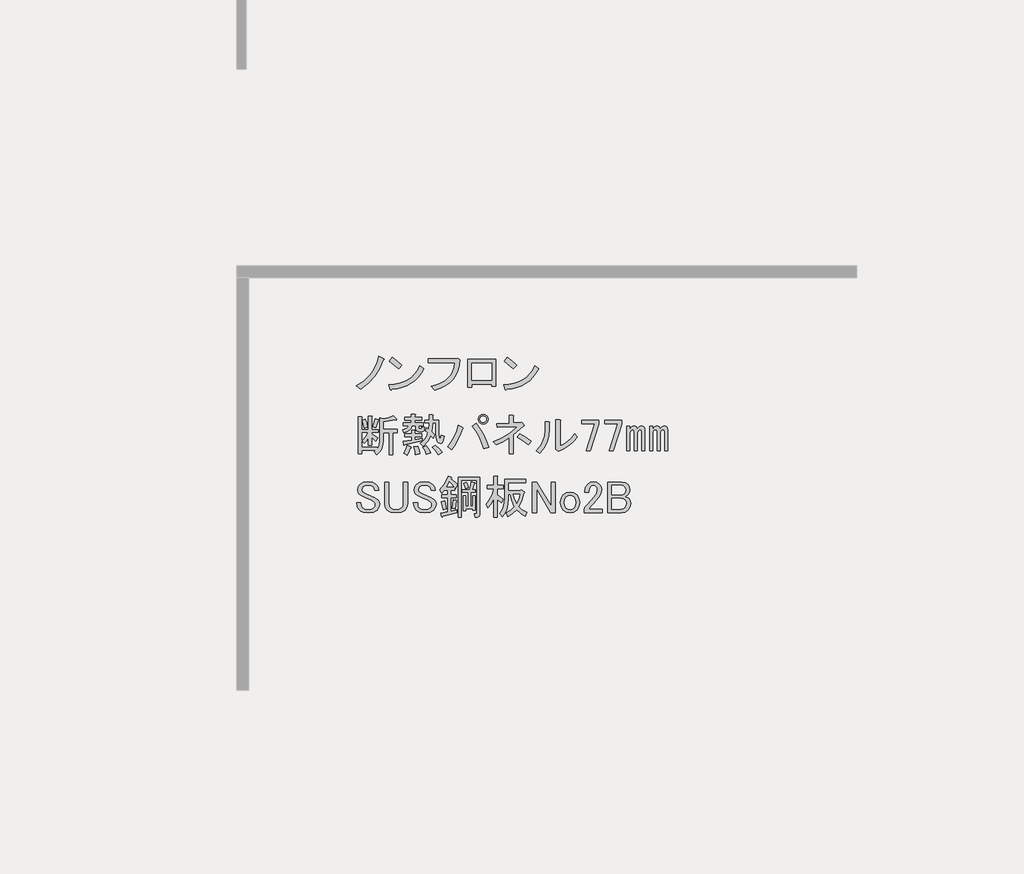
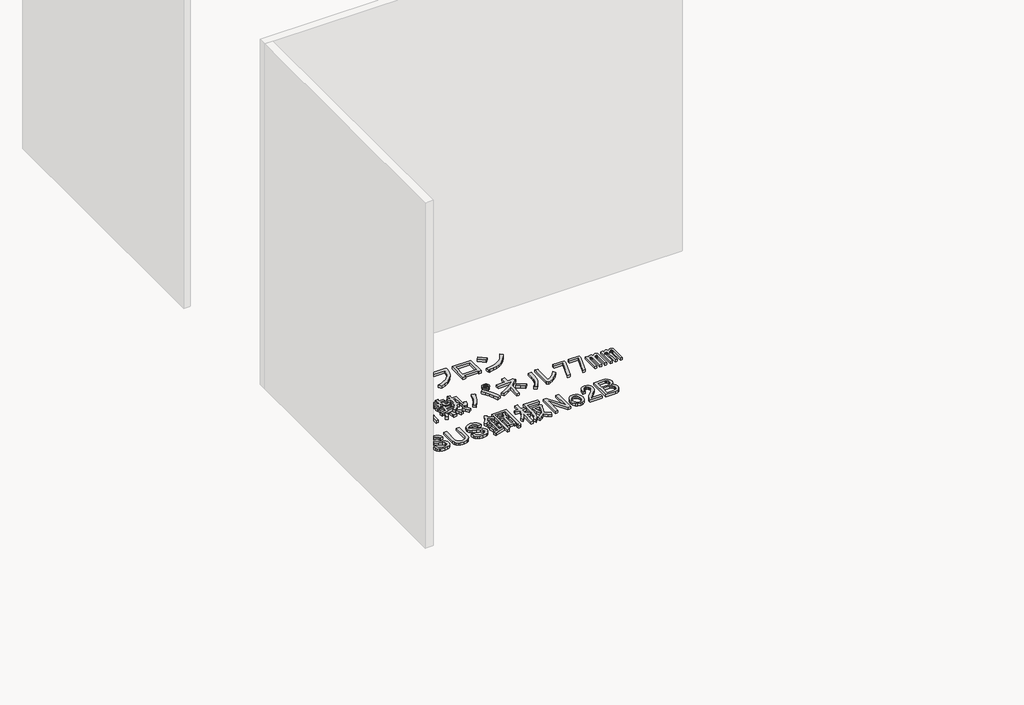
# One storey, part 43 of 117: 1 proxy.
"""IFC4 building model written with IfcOpenShell, lengths in millimetres."""

from ifc_helpers import new_model, si_unit, frame, origin, place, context, project, spatial, polyline, outline, extrude, element, save

model = new_model("IFC4")

# Units and contexts
model_context = context("Model", 3, world=origin())
ifc_project = project(units=[si_unit("LENGTHUNIT", "METRE", prefix="MILLI")], contexts=[model_context])

# Site, building, storey
site = spatial("IfcSite", under=ifc_project)
building = spatial("IfcBuilding", under=site)
storey = spatial("IfcBuildingStorey", under=building, Name="レベル 1", Elevation=500.0)

# Proxy
placement = place(None, origin())
element("IfcBuildingElementProxy", 1, Name="200㎜\u3000MS Pゴシック", ObjectType="200㎜\u3000MS Pゴシック", at=placement, inside=storey, context=model_context, shape_type="SweptSolid", body=[
    extrude(outline(polyline([(8943.6706985, -607.0496882), (8918.0952502, -666.8215225), (8889.646156, -712.7998566), (8847.9782907, -758.2034615), (8798.8389462, -795.560858), (8771.2519457, -773.7211493), (8818.9544673, -743.2605029), (8858.6107805, -704.7536481), (8875.9963381, -680.8305462), (8891.3703435, -652.7406577), (8904.7327969, -620.4839827), (8916.0836981, -584.0605212), (8947.1190736, -597.8540214), (8950.2800841, -602.4518548), (8943.6706985, -607.0496882)])), frame((0.0, 0.0, 500.0), z_axis=(0.0, 0.0, 1.0), x_axis=(1.0, 0.0, 0.0)), (0.0, 0.0, 1.0), 25.0),
    extrude(outline(polyline([(9043.3977052, -662.2236891), (8984.7753292, -615.0958967), (9004.3161212, -590.9572713), (9031.6157571, -610.7854279), (9065.2374138, -640.3839804), (9043.3977052, -662.2236891)])), frame((0.0, 0.0, 500.0), z_axis=(0.0, 0.0, 1.0), x_axis=(1.0, 0.0, 0.0)), (0.0, 0.0, 1.0), 25.0),
    extrude(outline(polyline([(9205.4713328, -662.2236891), (9188.947869, -691.965924), (9169.8381239, -717.9724192), (9148.1420975, -740.2431748), (9123.8597898, -758.7781907), (9096.9912008, -773.577467), (9067.5363306, -784.6410036), (9035.495179, -791.9688006), (9000.8677461, -795.560858), (8995.1204544, -803.6070664), (8989.3731626, -797.8597747), (8980.1774958, -767.9738575), (9016.0082679, -765.2977748), (9048.7857912, -758.9937141), (9078.5100658, -749.0616756), (9105.1810916, -735.5016591), (9128.7988687, -718.3136646), (9149.363397, -697.4976923), (9166.8746766, -673.053742), (9181.3327074, -644.9818138), (9205.4713328, -662.2236891)])), frame((0.0, 0.0, 500.0), z_axis=(0.0, 0.0, 1.0), x_axis=(1.0, 0.0, 0.0)), (0.0, 0.0, 1.0), 25.0),
    extrude(outline(polyline([(9256.2314136, -777.1695243), (9290.014713, -767.4889298), (9319.5234641, -755.1142922), (9344.757667, -740.0456116), (9365.7173217, -722.282888), (9382.402428, -701.8261214), (9394.8129862, -678.6753118), (9402.9489961, -652.8304591), (9406.8104577, -624.2915635), (9234.3917049, -624.2915635), (9234.3917049, -599.0034798), (9409.1093744, -599.0034798), (9425.2017914, -595.5551047), (9437.8458332, -607.0496882), (9434.325617, -643.5449909), (9426.0638851, -676.5919185), (9413.0606375, -706.1904711), (9395.3158742, -732.3406486), (9372.8295952, -755.042451), (9345.6018005, -774.2958784), (9313.6324901, -790.1009308), (9276.921664, -802.4576081), (9256.2314136, -777.1695243)])), frame((0.0, 0.0, 500.0), z_axis=(0.0, 0.0, 1.0), x_axis=(1.0, 0.0, 0.0)), (0.0, 0.0, 1.0), 25.0),
    extrude(outline(polyline([(9670.955987, -776.020066), (9644.5184449, -776.020066), (9644.5184449, -763.3760241), (9516.9285679, -763.3760241), (9516.9285679, -781.7673577), (9490.4910258, -781.7673577), (9490.4910258, -602.4518548), (9670.955987, -602.4518548), (9670.955987, -776.020066)]), holes=[polyline([(9516.9285679, -627.7399386), (9516.9285679, -738.0879404), (9644.5184449, -738.0879404), (9644.5184449, -627.7399386), (9516.9285679, -627.7399386)])]), frame((0.0, 0.0, 500.0), z_axis=(0.0, 0.0, 1.0), x_axis=(1.0, 0.0, 0.0)), (0.0, 0.0, 1.0), 25.0),
    extrude(outline(polyline([(9947.0099049, -662.2236891), (9930.4864411, -691.965924), (9911.376696, -717.9724192), (9889.6806696, -740.2431748), (9865.3983619, -758.7781907), (9838.5297729, -773.577467), (9809.0749026, -784.6410036), (9777.0337511, -791.9688006), (9742.4063182, -795.560858), (9736.6590264, -803.6070664), (9730.9117347, -797.8597747), (9721.7160679, -767.9738575), (9757.5468399, -765.2977748), (9790.3243633, -758.9937141), (9820.0486378, -749.0616756), (9846.7196637, -735.5016591), (9870.3374407, -718.3136646), (9890.9019691, -697.4976923), (9908.4132486, -673.053742), (9922.8712795, -644.9818138), (9947.0099049, -662.2236891)])), frame((0.0, 0.0, 500.0), z_axis=(0.0, 0.0, 1.0), x_axis=(1.0, 0.0, 0.0)), (0.0, 0.0, 1.0), 25.0),
    extrude(outline(polyline([(9784.9362772, -662.2236891), (9726.3139013, -615.0958967), (9745.8546933, -590.9572713), (9773.1543291, -610.7854279), (9806.7759859, -640.3839804), (9784.9362772, -662.2236891)])), frame((0.0, 0.0, 500.0), z_axis=(0.0, 0.0, 1.0), x_axis=(1.0, 0.0, 0.0)), (0.0, 0.0, 1.0), 25.0),
    extrude(outline(polyline([(8877.0021141, -1039.2345221), (8894.2439894, -986.3594379), (8914.9342397, -992.1067296), (8916.6584273, -995.2677401), (8912.635323, -997.8540214), (8895.3934477, -1046.1312722), (8877.0021141, -1039.2345221)])), frame((0.0, 0.0, 500.0), z_axis=(0.0, 0.0, 1.0), x_axis=(1.0, 0.0, 0.0)), (0.0, 0.0, 1.0), 25.0),
    extrude(outline(polyline([(9031.0295333, -990.9572713), (9029.3053458, -995.5551047), (9021.8338665, -993.256188), (8944.8201569, -1005.9002299), (8944.8201569, -1055.326939), (9036.7768251, -1055.326939), (9036.7768251, -1077.1666477), (9005.7414495, -1077.1666477), (9005.7414495, -1217.4005666), (8982.7522825, -1217.4005666), (8982.7522825, -1077.1666477), (8944.8201569, -1077.1666477), (8944.8201569, -1126.5933568), (8942.2338756, -1154.3958807), (8934.4750317, -1179.1810764), (8921.5436253, -1200.948944), (8903.4396562, -1219.6994833), (8886.1977809, -1200.1586914), (8896.5429061, -1190.9630245), (8806.8851546, -1190.9630245), (8806.8851546, -1212.8027332), (8783.8959876, -1212.8027332), (8783.8959876, -973.715396), (8805.7356963, -973.715396), (8810.6208943, -976.0143127), (8806.8851546, -980.6121461), (8806.8851546, -1056.4763974), (8849.4151137, -1056.4763974), (8849.4151137, -969.1175626), (8867.8064473, -969.1175626), (8872.6916453, -971.4164793), (8868.9559057, -976.0143127), (8868.9559057, -1056.4763974), (8912.635323, -1056.4763974), (8912.635323, -1074.867731), (8868.9559057, -1074.867731), (8868.9559057, -1084.0633978), (8909.186948, -1110.5009399), (8895.3934477, -1132.3406486), (8868.9559057, -1105.9031065), (8868.9559057, -1158.7781907), (8849.4151137, -1158.7781907), (8849.4151137, -1110.5009399), (8836.1963426, -1130.3290965), (8821.8281132, -1146.1341488), (8809.1840713, -1127.7428152), (8831.02378, -1103.6041898), (8848.2656553, -1074.867731), (8806.8851546, -1074.867731), (8806.8851546, -1169.1233159), (8904.5891146, -1169.1233159), (8904.5891146, -1182.9168161), (8917.520521, -1158.7781907), (8921.8309898, -1125.4438985), (8921.8309898, -980.6121461), (8943.6706985, -986.3594379), (8979.8786366, -978.8879586), (9010.339283, -965.6691875), (9031.0295333, -990.9572713)])), frame((0.0, 0.0, 500.0), z_axis=(0.0, 0.0, 1.0), x_axis=(1.0, 0.0, 0.0)), (0.0, 0.0, 1.0), 25.0),
    extrude(outline(polyline([(8822.9775716, -1047.2807305), (8810.3335297, -996.7045631), (8829.8743217, -989.8078129), (8837.6331656, -1013.9464383), (8842.5183636, -1040.3839804), (8822.9775716, -1047.2807305)])), frame((0.0, 0.0, 500.0), z_axis=(0.0, 0.0, 1.0), x_axis=(1.0, 0.0, 0.0)), (0.0, 0.0, 1.0), 25.0),
    extrude(outline(polyline([(9121.8367431, -1167.9738575), (9125.2851182, -1172.8590555), (9119.5378264, -1176.020066), (9109.7674304, -1201.5955143), (9098.8475761, -1220.8489417), (9075.858409, -1209.3543582), (9088.5024509, -1185.790462), (9098.8475761, -1158.7781907), (9121.8367431, -1167.9738575)])), frame((0.0, 0.0, 500.0), z_axis=(0.0, 0.0, 1.0), x_axis=(1.0, 0.0, 0.0)), (0.0, 0.0, 1.0), 25.0),
    extrude(outline(polyline([(9166.6656188, -1163.3760241), (9176.7233794, -1190.67566), (9181.6085774, -1212.8027332), (9152.8721186, -1218.550025), (9150.2858373, -1196.9976809), (9142.5269934, -1166.8243992), (9166.6656188, -1163.3760241)])), frame((0.0, 0.0, 500.0), z_axis=(0.0, 0.0, 1.0), x_axis=(1.0, 0.0, 0.0)), (0.0, 0.0, 1.0), 25.0),
    extrude(outline(polyline([(9281.611454, -1157.6287323), (9306.3248086, -1178.8937119), (9325.2908714, -1203.6070664), (9298.8533293, -1218.550025), (9279.5999019, -1188.9514724), (9260.9212037, -1169.1233159), (9281.611454, -1157.6287323)])), frame((0.0, 0.0, 500.0), z_axis=(0.0, 0.0, 1.0), x_axis=(1.0, 0.0, 0.0)), (0.0, 0.0, 1.0), 25.0),
    extrude(outline(polyline([(9222.9890781, -1216.2511083), (9214.655505, -1191.5377537), (9201.1493694, -1170.2727742), (9221.8396197, -1162.2265657), (9238.7941304, -1183.7789098), (9250.5760785, -1207.0554415), (9222.9890781, -1216.2511083)])), frame((0.0, 0.0, 500.0), z_axis=(0.0, 0.0, 1.0), x_axis=(1.0, 0.0, 0.0)), (0.0, 0.0, 1.0), 25.0),
    extrude(outline(polyline([(9083.9046175, -1153.0308989), (9081.8930654, -1157.9160969), (9078.1573257, -1156.479274), (9072.410034, -1132.3406486), (9127.5840349, -1124.2944401), (9127.5840349, -1101.3052731), (9083.9046175, -1101.3052731), (9083.9046175, -1082.9139395), (9127.5840349, -1082.9139395), (9127.5840349, -1059.9247724), (9145.9753685, -1059.9247724), (9150.8605665, -1062.2236891), (9147.1248268, -1066.8215225), (9147.1248268, -1082.9139395), (9191.9537026, -1082.9139395), (9191.9537026, -1101.3052731), (9147.1248268, -1101.3052731), (9147.1248268, -1120.8460651), (9197.7009943, -1111.6503983), (9197.7009943, -1127.7428152), (9083.9046175, -1153.0308989)])), frame((0.0, 0.0, 500.0), z_axis=(0.0, 0.0, 1.0), x_axis=(1.0, 0.0, 0.0)), (0.0, 0.0, 1.0), 25.0),
    extrude(outline(polyline([(9154.021577, -1031.1883136), (9128.7334932, -1031.1883136), (9124.1356598, -1048.6457123), (9113.7905346, -1061.9363245), (9097.6981177, -1071.0601502), (9075.858409, -1076.0171893), (9071.2605756, -1056.4763974), (9096.5486594, -1047.8554597), (9104.0201386, -1040.5276627), (9108.0432429, -1031.1883136), (9072.410034, -1031.1883136), (9072.410034, -1012.79698), (9126.4345765, -1012.79698), (9126.4345765, -995.5551047), (9082.7551591, -995.5551047), (9082.7551591, -977.1637711), (9126.4345765, -977.1637711), (9126.4345765, -958.7724374), (9148.2742852, -958.7724374), (9153.1594832, -961.0713541), (9149.4237436, -965.6691875), (9149.4237436, -977.1637711), (9191.9537026, -977.1637711), (9191.9537026, -995.5551047), (9149.4237436, -995.5551047), (9149.4237436, -1012.79698), (9202.2988277, -1012.79698), (9202.2988277, -1031.1883136), (9173.5623689, -1031.1883136), (9173.5623689, -1043.8323555), (9174.9991919, -1049.0049181), (9179.3096607, -1050.7291056), (9189.6547859, -1050.7291056), (9193.3905255, -1047.5680951), (9193.1031609, -1038.0850637), (9212.6439529, -1040.3839804), (9209.770307, -1061.9363245), (9204.4540622, -1067.3244106), (9196.551536, -1069.1204392), (9172.4129106, -1069.1204392), (9158.6194104, -1064.2352412), (9154.021577, -1049.5796472), (9154.021577, -1031.1883136)])), frame((0.0, 0.0, 500.0), z_axis=(0.0, 0.0, 1.0), x_axis=(1.0, 0.0, 0.0)), (0.0, 0.0, 1.0), 25.0),
    extrude(outline(polyline([(9285.0598291, -1013.9464383), (9263.2201204, -1013.9464383), (9258.622287, -1071.4193559), (9278.163079, -1089.8106896), (9267.8179538, -1111.6503983), (9251.7255369, -1095.5579813), (9232.4721095, -1133.2027424), (9202.2988277, -1165.6749408), (9185.0569525, -1144.9846905), (9200.1435933, -1133.0590601), (9213.2186821, -1117.9724192), (9224.2822187, -1099.7247679), (9233.3342033, -1078.316106), (9216.092328, -1063.3731475), (9224.1385364, -1046.1312722), (9237.9320367, -1056.4763974), (9240.2309534, -1013.9464383), (9212.6439529, -1013.9464383), (9212.6439529, -995.5551047), (9240.2309534, -995.5551047), (9240.2309534, -961.0713541), (9262.0706621, -961.0713541), (9266.95586, -963.3702708), (9263.2201204, -967.9681043), (9263.2201204, -995.5551047), (9304.6006211, -995.5551047), (9304.6006211, -1092.1096063), (9308.0489961, -1116.2482317), (9311.2818477, -1118.2597838), (9314.0836525, -1115.0987733), (9318.3941213, -1093.2590646), (9337.9349133, -1100.1558147), (9333.408921, -1126.9525626), (9325.578236, -1142.9731384), (9314.4428582, -1148.2175421), (9300.0027877, -1142.6857738), (9293.4652433, -1135.3579768), (9288.7955687, -1123.719711), (9285.0598291, -1087.5117729), (9285.0598291, -1013.9464383)])), frame((0.0, 0.0, 500.0), z_axis=(0.0, 0.0, 1.0), x_axis=(1.0, 0.0, 0.0)), (0.0, 0.0, 1.0), 25.0),
    extrude(outline(polyline([(9543.6879583, -1016.245355), (9570.3410238, -1052.9561812), (9592.8273029, -1090.6727833), (9611.1467953, -1129.3951616), (9625.2995013, -1169.1233159), (9594.2641258, -1179.468441), (9578.8182792, -1136.3637528), (9561.2171982, -1097.856898), (9541.4608827, -1063.9478766), (9519.5493329, -1034.6366887), (9543.6879583, -1016.245355)])), frame((0.0, 0.0, 500.0), z_axis=(0.0, 0.0, 1.0), x_axis=(1.0, 0.0, 0.0)), (0.0, 0.0, 1.0), 25.0),
    extrude(outline(polyline([(9456.3291235, -1042.6828971), (9460.3522278, -1048.1428243), (9454.0302068, -1053.0280223), (9442.1045764, -1088.4457078), (9427.0179356, -1122.282888), (9408.7702842, -1154.539563), (9387.3616224, -1185.2157328), (9360.9240803, -1167.9738575), (9384.1287708, -1136.5074351), (9403.1666748, -1103.0294606), (9418.0377922, -1067.539934), (9428.7421231, -1030.0388553), (9456.3291235, -1042.6828971)])), frame((0.0, 0.0, 500.0), z_axis=(0.0, 0.0, 1.0), x_axis=(1.0, 0.0, 0.0)), (0.0, 0.0, 1.0), 25.0),
    extrude(outline(polyline([(9589.6662924, -1021.9926468), (9577.0222505, -1019.6937301), (9566.6771253, -1012.79698), (9559.7803752, -1002.4518548), (9557.4814585, -989.8078129), (9559.7803752, -977.1637711), (9566.6771253, -966.8186459), (9577.0222505, -959.9218958), (9589.6662924, -957.6229791), (9602.3103343, -959.9218958), (9612.6554594, -966.8186459), (9619.5522095, -977.1637711), (9621.8511262, -989.8078129), (9619.5522095, -1002.4518548), (9612.6554594, -1012.79698), (9602.3103343, -1019.6937301), (9589.6662924, -1021.9926468)]), holes=[polyline([(9589.6662924, -1010.4980633), (9597.9998654, -1009.0612403), (9604.609251, -1004.7507715), (9608.9197198, -998.141386), (9610.3565427, -989.8078129), (9608.9197198, -981.4742399), (9604.609251, -974.8648544), (9597.9998654, -970.5543855), (9589.6662924, -969.1175626), (9581.3327193, -970.5543855), (9574.7233338, -974.8648544), (9570.412865, -981.4742399), (9568.976042, -989.8078129), (9570.412865, -998.141386), (9574.7233338, -1004.7507715), (9581.3327193, -1009.0612403), (9589.6662924, -1010.4980633)])]), frame((0.0, 0.0, 500.0), z_axis=(0.0, 0.0, 1.0), x_axis=(1.0, 0.0, 0.0)), (0.0, 0.0, 1.0), 25.0),
    extrude(outline(polyline([(9879.3297971, -1155.3298156), (9842.2597652, -1126.0186277), (9809.2128376, -1104.7536481), (9826.4547129, -1082.9139395), (9865.2489323, -1106.1904711), (9898.8705891, -1132.3406486), (9879.3297971, -1155.3298156)])), frame((0.0, 0.0, 500.0), z_axis=(0.0, 0.0, 1.0), x_axis=(1.0, 0.0, 0.0)), (0.0, 0.0, 1.0), 25.0),
    extrude(outline(polyline([(9833.351463, -1011.6475216), (9840.2482131, -1009.3486049), (9852.892255, -1026.5904802), (9854.0417134, -1032.6251366), (9848.2944216, -1034.6366887), (9785.0742122, -1090.9601479), (9785.0742122, -1211.6532749), (9758.6366701, -1211.6532749), (9758.6366701, -1109.3514816), (9718.4056278, -1133.4901069), (9673.5767521, -1155.3298156), (9654.0359601, -1134.6395653), (9699.5832473, -1115.1706145), (9740.8200657, -1092.3969709), (9777.7464152, -1066.3186345), (9810.362296, -1036.9356054), (9680.4735022, -1042.6828971), (9677.0251271, -1017.3948134), (9758.6366701, -1015.0958967), (9758.6366701, -963.3702708), (9781.6258372, -963.3702708), (9787.6604935, -966.8186459), (9785.0742122, -972.5659377), (9785.0742122, -1013.9464383), (9833.351463, -1011.6475216)])), frame((0.0, 0.0, 500.0), z_axis=(0.0, 0.0, 1.0), x_axis=(1.0, 0.0, 0.0)), (0.0, 0.0, 1.0), 25.0),
    extrude(outline(polyline([(9932.296838, -1193.2619413), (9957.4412394, -1164.0225944), (9975.4015262, -1131.4785548), (9986.1776982, -1095.6298225), (9989.7697556, -1056.4763974), (9989.7697556, -1004.7507715), (10013.908381, -1004.7507715), (10019.6556727, -1008.1991466), (10016.2072977, -1013.9464383), (10016.2072977, -1055.326939), (10012.3997169, -1101.0897496), (10000.9769745, -1141.82368), (9981.9390705, -1177.5287301), (9955.286005, -1208.2048998), (9932.296838, -1193.2619413)])), frame((0.0, 0.0, 500.0), z_axis=(0.0, 0.0, 1.0), x_axis=(1.0, 0.0, 0.0)), (0.0, 0.0, 1.0), 25.0),
    extrude(outline(polyline([(10086.3242571, -1162.2265657), (10111.1094529, -1150.0135708), (10134.8888725, -1132.9153778), (10157.6625161, -1110.9319868), (10179.4303837, -1084.0633978), (10195.5228006, -1105.9031065), (10172.246269, -1133.7056304), (10146.0960914, -1157.3413678), (10117.0722681, -1176.8103186), (10085.1747988, -1192.1124829), (10075.979132, -1196.7103163), (10057.5877983, -1182.9168161), (10059.886715, -1177.1695243), (10059.886715, -992.1067296), (10084.0253404, -992.1067296), (10089.7726322, -995.5551047), (10086.3242571, -1001.3023965), (10086.3242571, -1162.2265657)])), frame((0.0, 0.0, 500.0), z_axis=(0.0, 0.0, 1.0), x_axis=(1.0, 0.0, 0.0)), (0.0, 0.0, 1.0), 25.0),
    extrude(outline(polyline([(10227.7076344, -995.5551047), (10336.9061779, -995.5551047), (10336.9061779, -1020.8431884), (10281.732177, -1192.1124829), (10256.4440932, -1192.1124829), (10311.6180941, -1017.3948134), (10227.7076344, -1017.3948134), (10227.7076344, -995.5551047)])), frame((0.0, 0.0, 500.0), z_axis=(0.0, 0.0, 1.0), x_axis=(1.0, 0.0, 0.0)), (0.0, 0.0, 1.0), 25.0),
    extrude(outline(polyline([(10374.8383035, -995.5551047), (10484.0368469, -995.5551047), (10484.0368469, -1020.8431884), (10428.862846, -1192.1124829), (10403.5747623, -1192.1124829), (10458.7487632, -1017.3948134), (10374.8383035, -1017.3948134), (10374.8383035, -995.5551047)])), frame((0.0, 0.0, 500.0), z_axis=(0.0, 0.0, 1.0), x_axis=(1.0, 0.0, 0.0)), (0.0, 0.0, 1.0), 25.0),
    extrude(outline(polyline([(10758.7573931, -1032.337772), (10767.0909661, -1033.7745949), (10773.7003517, -1038.0850637), (10778.8729142, -1046.7060014), (10780.5971018, -1058.7753141), (10780.5971018, -1193.2619413), (10761.0563098, -1193.2619413), (10761.0563098, -1069.1204392), (10758.4700285, -1059.6374078), (10750.7111846, -1056.4763974), (10740.3660594, -1061.0742308), (10734.3314031, -1069.6951684), (10732.319851, -1079.4655644), (10732.319851, -1193.2619413), (10712.779059, -1193.2619413), (10712.779059, -1069.1204392), (10710.1927777, -1059.6374078), (10702.4339338, -1056.4763974), (10692.0888087, -1061.0742308), (10686.0541523, -1069.6951684), (10684.0426002, -1079.4655644), (10684.0426002, -1193.2619413), (10664.5018082, -1193.2619413), (10664.5018082, -1035.786147), (10684.0426002, -1035.786147), (10684.0426002, -1053.0280223), (10696.1119129, -1037.5103346), (10709.3306839, -1032.337772), (10718.5263508, -1033.7745949), (10725.4231009, -1038.0850637), (10732.319851, -1051.878564), (10745.2512574, -1037.22297), (10758.7573931, -1032.337772)])), frame((0.0, 0.0, 500.0), z_axis=(0.0, 0.0, 1.0), x_axis=(1.0, 0.0, 0.0)), (0.0, 0.0, 1.0), 25.0),
    extrude(outline(polyline([(10536.9119311, -1193.2619413), (10517.3711392, -1193.2619413), (10517.3711392, -1035.786147), (10536.9119311, -1035.786147), (10536.9119311, -1053.0280223), (10548.9812438, -1037.5103346), (10562.2000149, -1032.337772), (10571.3956817, -1033.7745949), (10578.2924318, -1038.0850637), (10585.1891819, -1051.878564), (10598.1205884, -1037.22297), (10611.626724, -1032.337772), (10619.9602971, -1033.7745949), (10626.5696826, -1038.0850637), (10631.7422452, -1046.7060014), (10633.4664327, -1058.7753141), (10633.4664327, -1193.2619413), (10613.9256407, -1193.2619413), (10613.9256407, -1069.1204392), (10611.3393594, -1059.6374078), (10603.5805156, -1056.4763974), (10593.2353904, -1061.0742308), (10587.200734, -1069.6951684), (10585.1891819, -1079.4655644), (10585.1891819, -1193.2619413), (10565.6483899, -1193.2619413), (10565.6483899, -1069.1204392), (10563.0621086, -1059.6374078), (10555.3032648, -1056.4763974), (10544.9581396, -1061.0742308), (10538.9234833, -1069.6951684), (10536.9119311, -1079.4655644), (10536.9119311, -1193.2619413)])), frame((0.0, 0.0, 500.0), z_axis=(0.0, 0.0, 1.0), x_axis=(1.0, 0.0, 0.0)), (0.0, 0.0, 1.0), 25.0),
    extrude(outline(polyline([(8779.2981542, -1447.2807305), (8783.3212584, -1426.8778448), (8795.3905711, -1409.3486049), (8815.7934569, -1397.2792922), (8844.8172803, -1393.256188), (8876.1400204, -1397.8540214), (8898.8418228, -1411.6475216), (8910.9111355, -1429.1767615), (8914.9342397, -1449.5796472), (8888.4966976, -1449.5796472), (8886.1977809, -1436.9356054), (8879.3010308, -1426.5904802), (8866.0822598, -1418.8316363), (8847.116197, -1416.245355), (8826.7133112, -1418.5442717), (8813.7819048, -1425.4410219), (8807.7472484, -1434.0619595), (8805.7356963, -1443.8323555), (8810.3335297, -1458.7753141), (8831.02378, -1470.2698976), (8890.7956143, -1496.7074397), (8908.0374896, -1508.2020232), (8917.520521, -1521.9955234), (8920.6815315, -1538.0879404), (8916.6584273, -1559.3529199), (8904.5891146, -1577.1695243), (8894.6031951, -1584.7128448), (8881.8873121, -1590.1009308), (8848.2656553, -1594.4113996), (8814.6439985, -1589.238837), (8801.0660217, -1582.7731338), (8789.6432794, -1573.7211493), (8778.4360604, -1555.3298156), (8774.7003208, -1530.0417319), (8801.1378629, -1530.0417319), (8803.4367796, -1547.8583363), (8810.3335297, -1559.927649), (8826.4259466, -1569.4106804), (8849.4151137, -1572.5716909), (8870.3927286, -1569.698045), (8885.0483226, -1561.0771074), (8891.9450727, -1551.8814406), (8894.2439894, -1542.6857738), (8892.5198019, -1533.2027424), (8887.3472393, -1525.4438985), (8868.9559057, -1513.949315), (8839.0699885, -1500.1558147), (8805.7356963, -1485.2128562), (8789.6432794, -1474.867731), (8781.8844355, -1462.7984183), (8779.2981542, -1447.2807305)])), frame((0.0, 0.0, 500.0), z_axis=(0.0, 0.0, 1.0), x_axis=(1.0, 0.0, 0.0)), (0.0, 0.0, 1.0), 25.0),
    extrude(outline(polyline([(8954.7054987, -1395.5551047), (8981.1430408, -1395.5551047), (8981.1430408, -1533.4901069), (8983.7293221, -1548.1457009), (8991.488166, -1559.927649), (9007.0058537, -1569.4106804), (9028.2708332, -1572.5716909), (9049.5358128, -1569.4106804), (9065.0535005, -1559.927649), (9072.8123444, -1548.1457009), (9075.3986257, -1533.4901069), (9075.3986257, -1395.5551047), (9101.8361678, -1395.5551047), (9101.8361678, -1534.6395653), (9097.8130635, -1557.6287323), (9085.7437508, -1576.020066), (9075.2549434, -1584.0662744), (9062.1798546, -1589.8135662), (9028.2708332, -1594.4113996), (8994.3618119, -1589.8135662), (8981.2867231, -1584.0662744), (8970.7979156, -1576.020066), (8958.7286029, -1557.6287323), (8954.7054987, -1534.6395653), (8954.7054987, -1395.5551047)])), frame((0.0, 0.0, 500.0), z_axis=(0.0, 0.0, 1.0), x_axis=(1.0, 0.0, 0.0)), (0.0, 0.0, 1.0), 25.0),
    extrude(outline(polyline([(9144.1822135, -1447.2807305), (9148.2053177, -1426.8778448), (9160.2746304, -1409.3486049), (9180.6775161, -1397.2792922), (9209.7013395, -1393.256188), (9241.0240796, -1397.8540214), (9263.7258821, -1411.6475216), (9275.7951948, -1429.1767615), (9279.818299, -1449.5796472), (9253.3807569, -1449.5796472), (9251.0818402, -1436.9356054), (9244.1850901, -1426.5904802), (9230.966319, -1418.8316363), (9212.0002562, -1416.245355), (9191.5973705, -1418.5442717), (9178.665964, -1425.4410219), (9172.6313077, -1434.0619595), (9170.6197556, -1443.8323555), (9175.217589, -1458.7753141), (9195.9078393, -1470.2698976), (9255.6796736, -1496.7074397), (9272.9215489, -1508.2020232), (9282.4045803, -1521.9955234), (9285.5655908, -1538.0879404), (9281.5424865, -1559.3529199), (9269.4731738, -1577.1695243), (9259.4872544, -1584.7128448), (9246.7713714, -1590.1009308), (9213.1497146, -1594.4113996), (9179.5280578, -1589.238837), (9165.950081, -1582.7731338), (9154.5273386, -1573.7211493), (9143.3201197, -1555.3298156), (9139.5843801, -1530.0417319), (9166.0219222, -1530.0417319), (9168.3208389, -1547.8583363), (9175.217589, -1559.927649), (9191.3100059, -1569.4106804), (9214.2991729, -1572.5716909), (9235.2767879, -1569.698045), (9249.9323819, -1561.0771074), (9256.829132, -1551.8814406), (9259.1280487, -1542.6857738), (9257.4038611, -1533.2027424), (9252.2312986, -1525.4438985), (9233.8399649, -1513.949315), (9203.9540478, -1500.1558147), (9170.6197556, -1485.2128562), (9154.5273386, -1474.867731), (9146.7684948, -1462.7984183), (9144.1822135, -1447.2807305)])), frame((0.0, 0.0, 500.0), z_axis=(0.0, 0.0, 1.0), x_axis=(1.0, 0.0, 0.0)), (0.0, 0.0, 1.0), 25.0),
    extrude(outline(polyline([(9417.2935179, -1513.949315), (9419.8797992, -1517.1103254), (9416.1440596, -1519.6966067), (9408.0978511, -1566.8243992), (9389.7065175, -1564.5254825), (9395.4538092, -1510.5009399), (9417.2935179, -1513.949315)])), frame((0.0, 0.0, 500.0), z_axis=(0.0, 0.0, 1.0), x_axis=(1.0, 0.0, 0.0)), (0.0, 0.0, 1.0), 25.0),
    extrude(outline(polyline([(9340.2798083, -1515.0987733), (9351.7743918, -1566.8243992), (9331.0841415, -1572.5716909), (9319.589558, -1520.8460651), (9340.2798083, -1515.0987733)])), frame((0.0, 0.0, 500.0), z_axis=(0.0, 0.0, 1.0), x_axis=(1.0, 0.0, 0.0)), (0.0, 0.0, 1.0), 25.0),
    extrude(outline(polyline([(9413.8451429, -1434.6366887), (9372.4646422, -1390.9572713), (9350.6249335, -1430.0388553), (9405.7989344, -1430.0388553), (9405.7989344, -1448.4301889), (9379.3613923, -1448.4301889), (9379.3613923, -1477.1666477), (9417.2935179, -1477.1666477), (9417.2935179, -1495.5579813), (9379.3613923, -1495.5579813), (9379.3613923, -1582.9168161), (9418.4429763, -1572.5716909), (9420.741893, -1592.1124829), (9328.7852248, -1617.4005666), (9326.4863081, -1623.1478584), (9321.8884747, -1619.6994833), (9314.9917246, -1596.7103163), (9359.8206003, -1587.5146495), (9359.8206003, -1495.5579813), (9321.8884747, -1495.5579813), (9321.8884747, -1477.1666477), (9359.8206003, -1477.1666477), (9359.8206003, -1448.4301889), (9337.9808916, -1448.4301889), (9323.037933, -1466.8215225), (9310.3938912, -1446.1312722), (9338.5556208, -1408.4865112), (9363.2689754, -1357.6229791), (9385.1086841, -1363.3702708), (9388.5570591, -1367.1060105), (9382.8097674, -1369.1175626), (9381.660309, -1372.5659377), (9426.4891847, -1410.4980633), (9413.8451429, -1434.6366887)])), frame((0.0, 0.0, 500.0), z_axis=(0.0, 0.0, 1.0), x_axis=(1.0, 0.0, 0.0)), (0.0, 0.0, 1.0), 25.0),
    extrude(outline(polyline([(9481.6631856, -1397.8540214), (9488.8473003, -1413.0843446), (9494.3072275, -1433.4872303), (9477.0653522, -1439.2345221), (9465.5707687, -1402.4518548), (9481.6631856, -1397.8540214)])), frame((0.0, 0.0, 500.0), z_axis=(0.0, 0.0, 1.0), x_axis=(1.0, 0.0, 0.0)), (0.0, 0.0, 1.0), 25.0),
    extrude(outline(polyline([(9534.5382698, -1399.0034798), (9537.1245511, -1402.4518548), (9531.0898948, -1405.9002299), (9518.4458529, -1443.8323555), (9539.1361032, -1443.8323555), (9539.1361032, -1462.2236891), (9508.1007277, -1462.2236891), (9508.1007277, -1550.7319822), (9523.0436863, -1550.7319822), (9523.0436863, -1482.9139395), (9539.1361032, -1482.9139395), (9539.1361032, -1577.1695243), (9523.0436863, -1577.1695243), (9523.0436863, -1569.1233159), (9477.0653522, -1569.1233159), (9477.0653522, -1581.7673577), (9460.9729353, -1581.7673577), (9460.9729353, -1485.2128562), (9477.0653522, -1485.2128562), (9477.0653522, -1550.7319822), (9492.0083108, -1550.7319822), (9492.0083108, -1462.2236891), (9456.3751019, -1462.2236891), (9456.3751019, -1443.8323555), (9502.353436, -1443.8323555), (9512.6985611, -1394.4056463), (9534.5382698, -1399.0034798)])), frame((0.0, 0.0, 500.0), z_axis=(0.0, 0.0, 1.0), x_axis=(1.0, 0.0, 0.0)), (0.0, 0.0, 1.0), 25.0),
    extrude(outline(polyline([(9428.7881014, -1365.6691875), (9569.0220204, -1365.6691875), (9569.0220204, -1605.9059831), (9565.2862807, -1617.1132021), (9554.0790618, -1620.8489417), (9537.9866449, -1620.8489417), (9533.3888115, -1599.009233), (9544.883395, -1599.009233), (9548.33177, -1597.8597747), (9549.4812284, -1594.4113996), (9549.4812284, -1384.0605212), (9448.3288934, -1384.0605212), (9448.3288934, -1623.1478584), (9428.7881014, -1623.1478584), (9428.7881014, -1365.6691875)])), frame((0.0, 0.0, 500.0), z_axis=(0.0, 0.0, 1.0), x_axis=(1.0, 0.0, 0.0)), (0.0, 0.0, 1.0), 25.0),
    extrude(outline(polyline([(9740.2913148, -1594.4113996), (9769.0277736, -1577.1695243), (9790.8674823, -1555.3298156), (9773.0508779, -1513.3745858), (9763.2804819, -1472.5688143), (9750.63644, -1472.5688143), (9750.63644, -1496.7074397), (9748.193841, -1538.4471461), (9740.866044, -1572.8590555), (9728.653049, -1599.9431679), (9711.554856, -1619.6994833), (9697.7613558, -1596.7103163), (9710.8364446, -1579.3247587), (9720.1757937, -1557.0540032), (9725.7794031, -1529.8980496), (9727.647273, -1497.856898), (9727.647273, -1377.1637711), (9864.4328169, -1377.1637711), (9864.4328169, -1399.0034798), (9750.63644, -1399.0034798), (9750.63644, -1450.7291056), (9829.9490663, -1450.7291056), (9835.6963581, -1444.9818138), (9855.23715, -1458.7753141), (9856.673973, -1462.5110537), (9851.788775, -1466.8215225), (9839.4320977, -1513.3745858), (9820.7533995, -1554.1803573), (9839.7194623, -1572.5716909), (9871.329567, -1590.9630245), (9862.1339002, -1615.1016499), (9834.2595351, -1599.009233), (9805.8104409, -1573.7211493), (9781.3844509, -1598.1471392), (9749.4869817, -1618.550025), (9740.2913148, -1594.4113996)]), holes=[polyline([(9785.1201906, -1472.5688143), (9793.166399, -1505.6157419), (9805.8104409, -1533.4901069), (9818.4544828, -1507.3399294), (9826.5006912, -1472.5688143), (9785.1201906, -1472.5688143)])]), frame((0.0, 0.0, 500.0), z_axis=(0.0, 0.0, 1.0), x_axis=(1.0, 0.0, 0.0)), (0.0, 0.0, 1.0), 25.0),
    extrude(outline(polyline([(9657.5303135, -1623.1478584), (9657.5303135, -1503.6041898), (9639.713709, -1537.8005758), (9620.7476462, -1559.927649), (9609.2530627, -1539.2373987), (9626.494938, -1516.5355963), (9640.2884382, -1492.1096063), (9650.6335634, -1465.9594288), (9657.5303135, -1438.0850637), (9616.1498128, -1438.0850637), (9616.1498128, -1416.245355), (9657.5303135, -1416.245355), (9657.5303135, -1356.4735207), (9679.3700222, -1356.4735207), (9684.2552202, -1358.7724374), (9680.5194805, -1363.3702708), (9680.5194805, -1416.245355), (9718.4516061, -1416.245355), (9718.4516061, -1438.0850637), (9680.5194805, -1438.0850637), (9680.5194805, -1478.316106), (9718.4516061, -1504.7536481), (9708.106481, -1527.7428152), (9680.5194805, -1504.7536481), (9680.5194805, -1623.1478584), (9657.5303135, -1623.1478584)])), frame((0.0, 0.0, 500.0), z_axis=(0.0, 0.0, 1.0), x_axis=(1.0, 0.0, 0.0)), (0.0, 0.0, 1.0), 25.0),
    extrude(outline(polyline([(9908.1122342, -1395.5551047), (9936.848693, -1395.5551047), (10028.8053612, -1550.7319822), (10028.8053612, -1395.5551047), (10055.2429033, -1395.5551047), (10055.2429033, -1592.1124829), (10026.5064445, -1592.1124829), (9934.5497763, -1436.9356054), (9934.5497763, -1592.1124829), (9908.1122342, -1592.1124829), (9908.1122342, -1395.5551047)])), frame((0.0, 0.0, 500.0), z_axis=(0.0, 0.0, 1.0), x_axis=(1.0, 0.0, 0.0)), (0.0, 0.0, 1.0), 25.0),
    extrude(outline(polyline([(10088.3932822, -1527.7428152), (10093.2784802, -1500.4431793), (10107.9340742, -1478.316106), (10127.1875015, -1465.3846996), (10150.4640332, -1461.0742308), (10173.7405648, -1465.3846996), (10192.9939922, -1478.316106), (10207.6495862, -1500.4431793), (10212.5347842, -1527.7428152), (10207.6495862, -1555.042451), (10192.9939922, -1577.1695243), (10173.7405648, -1590.1009308), (10150.4640332, -1594.4113996), (10127.1875015, -1590.1009308), (10107.9340742, -1577.1695243), (10093.2784802, -1555.042451), (10088.3932822, -1527.7428152)]), holes=[polyline([(10150.4640332, -1481.7644811), (10137.8199913, -1484.0633978), (10127.4748661, -1490.9601479), (10117.129741, -1507.0525648), (10113.6813659, -1527.7428152), (10116.8423764, -1548.1457009), (10126.3254078, -1563.3760241), (10137.5326267, -1571.134868), (10150.4640332, -1573.7211493), (10163.3954396, -1571.134868), (10174.6026586, -1563.3760241), (10184.08569, -1548.1457009), (10187.2467004, -1527.7428152), (10183.7983254, -1507.0525648), (10173.4532002, -1490.9601479), (10163.1080751, -1484.0633978), (10150.4640332, -1481.7644811)])]), frame((0.0, 0.0, 500.0), z_axis=(0.0, 0.0, 1.0), x_axis=(1.0, 0.0, 0.0)), (0.0, 0.0, 1.0), 25.0),
    extrude(outline(polyline([(10245.3633147, -1462.2236891), (10249.9611481, -1430.900949), (10263.7546484, -1408.1991466), (10280.1344299, -1396.9919276), (10299.3878573, -1393.256188), (10322.0896597, -1396.9919276), (10339.6188996, -1408.1991466), (10350.8261185, -1424.8662927), (10354.5618582, -1444.9818138), (10350.2513893, -1470.8446268), (10337.3199829, -1493.2590646), (10303.9856907, -1531.1911902), (10285.594357, -1551.8814406), (10271.8008568, -1570.2727742), (10358.0102332, -1570.2727742), (10358.0102332, -1592.1124829), (10240.7654813, -1592.1124829), (10240.7654813, -1572.5716909), (10246.8001377, -1558.7781907), (10260.3062733, -1540.3868571), (10307.4340657, -1488.6612312), (10322.0896597, -1467.3962517), (10326.9748577, -1444.9818138), (10324.675941, -1432.337772), (10317.7791909, -1421.9926468), (10310.020347, -1416.8200842), (10300.5373156, -1415.0958967), (10291.916378, -1416.8200842), (10284.4448987, -1421.9926468), (10274.9618673, -1438.3724283), (10271.8008568, -1462.2236891), (10245.3633147, -1462.2236891)])), frame((0.0, 0.0, 500.0), z_axis=(0.0, 0.0, 1.0), x_axis=(1.0, 0.0, 0.0)), (0.0, 0.0, 1.0), 25.0),
    extrude(outline(polyline([(10392.4939838, -1395.5551047), (10484.4506519, -1395.5551047), (10505.4282669, -1399.2908443), (10522.3827776, -1410.4980633), (10532.7279027, -1426.5904802), (10536.1762778, -1447.2807305), (10533.0152673, -1464.2352412), (10523.5322359, -1478.316106), (10506.2903606, -1488.6612312), (10528.1300693, -1501.3052731), (10538.4751945, -1516.8229608), (10541.9235696, -1535.7890237), (10537.6131007, -1559.0655553), (10524.6816943, -1578.3189827), (10507.439819, -1588.6641078), (10483.3011936, -1592.1124829), (10392.4939838, -1592.1124829), (10392.4939838, -1395.5551047)]), holes=[polyline([(10418.9315259, -1417.3948134), (10418.9315259, -1478.316106), (10481.0022769, -1478.316106), (10491.6347666, -1476.3045539), (10500.5430689, -1470.2698976), (10507.439819, -1459.6374078), (10509.7387357, -1446.1312722), (10507.439819, -1434.3493241), (10500.5430689, -1424.2915635), (10492.784225, -1419.1190009), (10483.3011936, -1417.3948134), (10418.9315259, -1417.3948134)]), polyline([(10418.9315259, -1500.1558147), (10418.9315259, -1570.2727742), (10477.5539018, -1570.2727742), (10492.784225, -1567.9738575), (10503.9914439, -1561.0771074), (10511.7502878, -1549.5825239), (10514.3365691, -1535.7890237), (10512.0376524, -1521.4207942), (10505.1409023, -1510.5009399), (10493.0715896, -1502.742096), (10477.5539018, -1500.1558147), (10418.9315259, -1500.1558147)])]), frame((0.0, 0.0, 500.0), z_axis=(0.0, 0.0, 1.0), x_axis=(1.0, 0.0, 0.0)), (0.0, 0.0, 1.0), 25.0),
])

save(model, "model.ifc")
